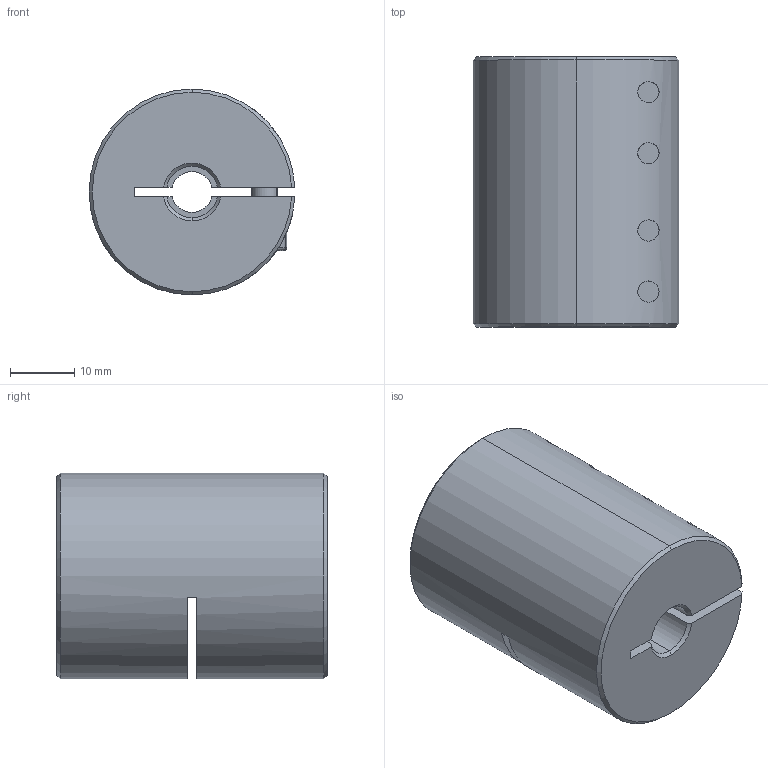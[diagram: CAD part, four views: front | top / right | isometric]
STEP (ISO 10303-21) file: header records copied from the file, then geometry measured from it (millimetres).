
FILE_DESCRIPTION (( 'STEP AP203' ), '1' );
FILE_NAME ('LL-B-D32L42-6.35-8.STEP', '2021-11-05T07:37:13', ( '' ), ( '' ), 'SwSTEP 2.0', 'SolidWorks 2018', '' );
FILE_SCHEMA (( 'CONFIG_CONTROL_DESIGN' ));
Length unit declared in the file: millimetre
Products named in the file (1): LL-B-D32L42-6.35-8
Bounding box: 31.98 x 42 x 32 mm (x, y, z)
Volume: 29499.1 mm3; surface area: 10286.3 mm2
Topology: 1 solids, 1 shells, 193 faces, 492 edges, 309 vertices
Faces by surface type: plane 88, cylinder 77, cone 20, torus 8
Entity records: 6376 total; most frequent: CARTESIAN_POINT 1559, DIRECTION 1037, ORIENTED_EDGE 968, EDGE_CURVE 484, AXIS2_PLACEMENT_3D 403, VERTEX_POINT 309, VECTOR 231, LINE 231
